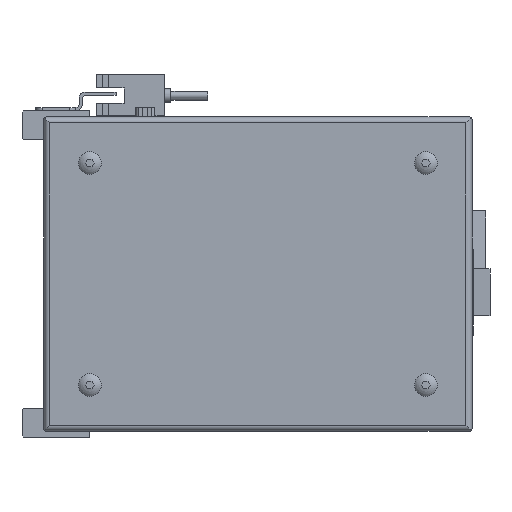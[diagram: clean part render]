
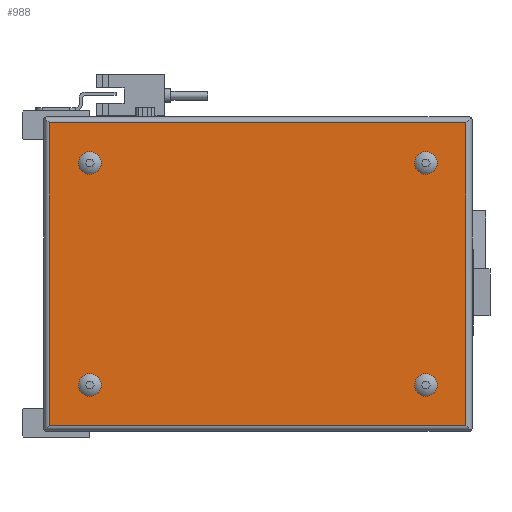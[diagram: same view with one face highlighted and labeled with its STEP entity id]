
A CAD part, left-side view. The second image highlights one B-rep face of the part: STEP entity #988.
In plain terms, the highlighted planar face has unit normal (-1, 0, 0).
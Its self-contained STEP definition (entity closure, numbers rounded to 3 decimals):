
#988 = ADVANCED_FACE( '', ( #2578, #2579, #2580, #2581, #2582 ), #2583, .F. );
#2578 = FACE_BOUND( '', #5025, .T. );
#2579 = FACE_BOUND( '', #5026, .T. );
#2580 = FACE_BOUND( '', #5027, .T. );
#2581 = FACE_BOUND( '', #5028, .T. );
#2582 = FACE_OUTER_BOUND( '', #5029, .T. );
#2583 = PLANE( '', #5030 );
#5025 = EDGE_LOOP( '', ( #7656 ) );
#5026 = EDGE_LOOP( '', ( #7657 ) );
#5027 = EDGE_LOOP( '', ( #7658 ) );
#5028 = EDGE_LOOP( '', ( #7659 ) );
#5029 = EDGE_LOOP( '', ( #7660, #7661, #7662, #7663 ) );
#5030 = AXIS2_PLACEMENT_3D( '', #7664, #7665, #7666 );
#7656 = ORIENTED_EDGE( '', *, *, #14199, .F. );
#7657 = ORIENTED_EDGE( '', *, *, #14200, .F. );
#7658 = ORIENTED_EDGE( '', *, *, #14049, .F. );
#7659 = ORIENTED_EDGE( '', *, *, #14201, .F. );
#7660 = ORIENTED_EDGE( '', *, *, #14202, .T. );
#7661 = ORIENTED_EDGE( '', *, *, #14203, .F. );
#7662 = ORIENTED_EDGE( '', *, *, #14204, .F. );
#7663 = ORIENTED_EDGE( '', *, *, #14205, .T. );
#7664 = CARTESIAN_POINT( '', ( -52., -75., 50. ) );
#7665 = DIRECTION( '', ( 1., 0., 0. ) );
#7666 = DIRECTION( '', ( 0., 0., -1. ) );
#14049 = EDGE_CURVE( '', #16679, #16679, #16680, .F. );
#14199 = EDGE_CURVE( '', #16950, #16950, #16951, .F. );
#14200 = EDGE_CURVE( '', #16952, #16952, #16953, .F. );
#14201 = EDGE_CURVE( '', #16954, #16954, #16955, .F. );
#14202 = EDGE_CURVE( '', #16956, #16957, #16958, .F. );
#14203 = EDGE_CURVE( '', #16959, #16957, #16960, .T. );
#14204 = EDGE_CURVE( '', #16961, #16959, #16962, .F. );
#14205 = EDGE_CURVE( '', #16961, #16956, #16963, .T. );
#16679 = VERTEX_POINT( '', #20626 );
#16680 = CIRCLE( '', #20627, 3.7 );
#16950 = VERTEX_POINT( '', #21010 );
#16951 = CIRCLE( '', #21011, 3.7 );
#16952 = VERTEX_POINT( '', #21012 );
#16953 = CIRCLE( '', #21013, 3.7 );
#16954 = VERTEX_POINT( '', #21014 );
#16955 = CIRCLE( '', #21015, 3.7 );
#16956 = VERTEX_POINT( '', #21016 );
#16957 = VERTEX_POINT( '', #21017 );
#16958 = LINE( '', #21018, #21019 );
#16959 = VERTEX_POINT( '', #21020 );
#16960 = LINE( '', #21021, #21022 );
#16961 = VERTEX_POINT( '', #21023 );
#16962 = LINE( '', #21024, #21025 );
#16963 = LINE( '', #21026, #21027 );
#20626 = CARTESIAN_POINT( '', ( -52., 48., 32.3 ) );
#20627 = AXIS2_PLACEMENT_3D( '', #26344, #26345, #26346 );
#21010 = CARTESIAN_POINT( '', ( -52., -61., 32.3 ) );
#21011 = AXIS2_PLACEMENT_3D( '', #26521, #26522, #26523 );
#21012 = CARTESIAN_POINT( '', ( -52., -61., -39.7 ) );
#21013 = AXIS2_PLACEMENT_3D( '', #26524, #26525, #26526 );
#21014 = CARTESIAN_POINT( '', ( -52., 48., -39.7 ) );
#21015 = AXIS2_PLACEMENT_3D( '', #26527, #26528, #26529 );
#21016 = CARTESIAN_POINT( '', ( -52., -74., 49. ) );
#21017 = CARTESIAN_POINT( '', ( -52., 61., 49. ) );
#21018 = CARTESIAN_POINT( '', ( -52., 139., 49. ) );
#21019 = VECTOR( '', #26530, 1000. );
#21020 = CARTESIAN_POINT( '', ( -52., 61., -49. ) );
#21021 = CARTESIAN_POINT( '', ( -52., 61., -102. ) );
#21022 = VECTOR( '', #26531, 1000. );
#21023 = CARTESIAN_POINT( '', ( -52., -74., -49. ) );
#21024 = CARTESIAN_POINT( '', ( -52., 139., -49. ) );
#21025 = VECTOR( '', #26532, 1000. );
#21026 = CARTESIAN_POINT( '', ( -52., -74., -102. ) );
#21027 = VECTOR( '', #26533, 1000. );
#26344 = CARTESIAN_POINT( '', ( -52., 48., 36. ) );
#26345 = DIRECTION( '', ( 1., 0., 0. ) );
#26346 = DIRECTION( '', ( 0., 0., -1. ) );
#26521 = CARTESIAN_POINT( '', ( -52., -61., 36. ) );
#26522 = DIRECTION( '', ( 1., 0., 0. ) );
#26523 = DIRECTION( '', ( 0., 0., -1. ) );
#26524 = CARTESIAN_POINT( '', ( -52., -61., -36. ) );
#26525 = DIRECTION( '', ( 1., 0., 0. ) );
#26526 = DIRECTION( '', ( 0., 0., -1. ) );
#26527 = CARTESIAN_POINT( '', ( -52., 48., -36. ) );
#26528 = DIRECTION( '', ( 1., 0., 0. ) );
#26529 = DIRECTION( '', ( 0., 0., -1. ) );
#26530 = DIRECTION( '', ( 0., -1., 0. ) );
#26531 = DIRECTION( '', ( 0., 0., 1. ) );
#26532 = DIRECTION( '', ( 0., -1., 0. ) );
#26533 = DIRECTION( '', ( 0., 0., 1. ) );
